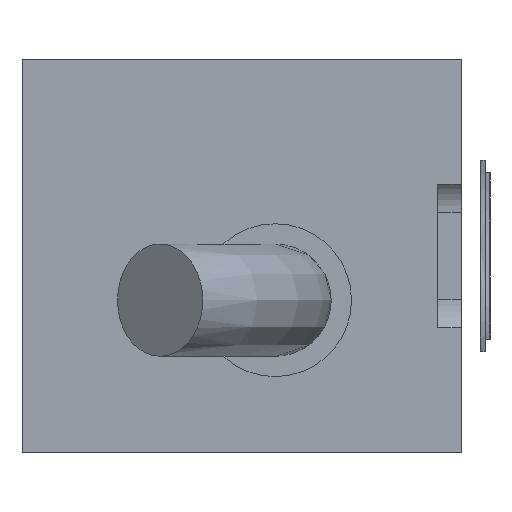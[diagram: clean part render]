
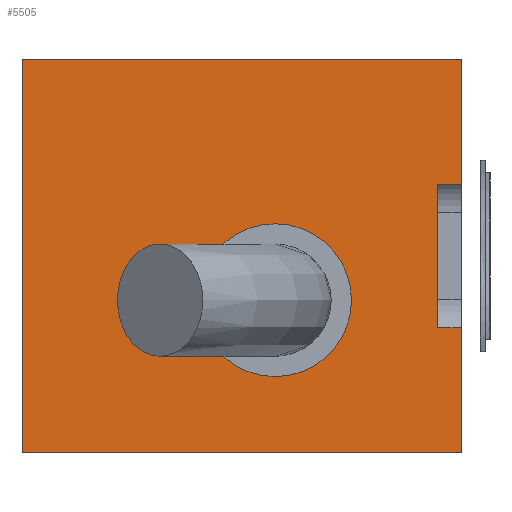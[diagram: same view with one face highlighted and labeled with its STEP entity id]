
A CAD part, left-side view. The second image highlights one B-rep face of the part: STEP entity #5505.
In plain terms, the highlighted planar face has unit normal (-1, 0, 0).
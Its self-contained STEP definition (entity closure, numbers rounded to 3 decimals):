
#160 = DIRECTION ( 'NONE',  ( 0., -1., 0. ) ) ;
#317 = VERTEX_POINT ( 'NONE', #1193 ) ;
#324 = CARTESIAN_POINT ( 'NONE',  ( -18., 0., 8.25 ) ) ;
#345 = FACE_OUTER_BOUND ( 'NONE', #7143, .T. ) ;
#605 = EDGE_CURVE ( 'NONE', #10595, #4561, #3071, .T. ) ;
#631 = VECTOR ( 'NONE', #999, 1000. ) ;
#749 = DIRECTION ( 'NONE',  ( 0., 0., 1. ) ) ;
#801 = CARTESIAN_POINT ( 'NONE',  ( -18., 1., 8.25 ) ) ;
#999 = DIRECTION ( 'NONE',  ( 0., 0., 1. ) ) ;
#1043 = CARTESIAN_POINT ( 'NONE',  ( -18., 1., -3. ) ) ;
#1125 = VECTOR ( 'NONE', #6703, 1000. ) ;
#1193 = CARTESIAN_POINT ( 'NONE',  ( -18., 1., 3. ) ) ;
#1599 = CARTESIAN_POINT ( 'NONE',  ( -18., 0., -3. ) ) ;
#1606 = EDGE_LOOP ( 'NONE', ( #3007, #9423 ) ) ;
#1650 = ORIENTED_EDGE ( 'NONE', *, *, #5278, .T. ) ;
#1722 = EDGE_CURVE ( 'NONE', #4429, #1838, #5942, .T. ) ;
#1835 = EDGE_CURVE ( 'NONE', #9104, #8877, #2994, .T. ) ;
#1838 = VERTEX_POINT ( 'NONE', #1043 ) ;
#2056 = EDGE_CURVE ( 'NONE', #2518, #7193, #10161, .T. ) ;
#2067 = LINE ( 'NONE', #3261, #2985 ) ;
#2206 = AXIS2_PLACEMENT_3D ( 'NONE', #10916, #5843, #749 ) ;
#2239 = AXIS2_PLACEMENT_3D ( 'NONE', #10870, #5833, #10790 ) ;
#2518 = VERTEX_POINT ( 'NONE', #5622 ) ;
#2628 = CARTESIAN_POINT ( 'NONE',  ( -18., 0., 3. ) ) ;
#2767 = DIRECTION ( 'NONE',  ( 0., 0., 1. ) ) ;
#2985 = VECTOR ( 'NONE', #6749, 1000. ) ;
#2994 = LINE ( 'NONE', #3563, #8438 ) ;
#3007 = ORIENTED_EDGE ( 'NONE', *, *, #605, .F. ) ;
#3011 = CARTESIAN_POINT ( 'NONE',  ( -18., 7.8, -1.85 ) ) ;
#3024 = ORIENTED_EDGE ( 'NONE', *, *, #4468, .F. ) ;
#3071 = CIRCLE ( 'NONE', #2206, 3.2 ) ;
#3261 = CARTESIAN_POINT ( 'NONE',  ( -18., 1., 3. ) ) ;
#3298 = ORIENTED_EDGE ( 'NONE', *, *, #8935, .F. ) ;
#3374 = LINE ( 'NONE', #9612, #4970 ) ;
#3563 = CARTESIAN_POINT ( 'NONE',  ( -18., 18.4, -8.25 ) ) ;
#3645 = LINE ( 'NONE', #801, #1125 ) ;
#4429 = VERTEX_POINT ( 'NONE', #1599 ) ;
#4468 = EDGE_CURVE ( 'NONE', #9104, #2518, #9935, .T. ) ;
#4561 = VERTEX_POINT ( 'NONE', #6640 ) ;
#4853 = VECTOR ( 'NONE', #9521, 1000. ) ;
#4970 = VECTOR ( 'NONE', #2767, 1000. ) ;
#5152 = FACE_BOUND ( 'NONE', #1606, .T. ) ;
#5201 = CARTESIAN_POINT ( 'NONE',  ( -18., 1., -3. ) ) ;
#5278 = EDGE_CURVE ( 'NONE', #8877, #4429, #9653, .T. ) ;
#5505 = ADVANCED_FACE ( 'NONE', ( #5152, #345 ), #6661, .F. ) ;
#5622 = CARTESIAN_POINT ( 'NONE',  ( -18., 18.4, 8.25 ) ) ;
#5833 = DIRECTION ( 'NONE',  ( 1., 0., 0. ) ) ;
#5843 = DIRECTION ( 'NONE',  ( -1., 0., 0. ) ) ;
#5848 = CARTESIAN_POINT ( 'NONE',  ( -18., 18.4, 8.25 ) ) ;
#5942 = LINE ( 'NONE', #5201, #4853 ) ;
#6179 = CIRCLE ( 'NONE', #6688, 3.2 ) ;
#6329 = EDGE_CURVE ( 'NONE', #317, #7609, #2067, .T. ) ;
#6514 = ORIENTED_EDGE ( 'NONE', *, *, #1722, .T. ) ;
#6640 = CARTESIAN_POINT ( 'NONE',  ( -18., 7.8, -5.05 ) ) ;
#6661 = PLANE ( 'NONE',  #2239 ) ;
#6688 = AXIS2_PLACEMENT_3D ( 'NONE', #3011, #7311, #8015 ) ;
#6697 = ORIENTED_EDGE ( 'NONE', *, *, #2056, .F. ) ;
#6703 = DIRECTION ( 'NONE',  ( 0., 0., -1. ) ) ;
#6749 = DIRECTION ( 'NONE',  ( 0., -1., 0. ) ) ;
#6972 = VECTOR ( 'NONE', #9792, 1000. ) ;
#7128 = ORIENTED_EDGE ( 'NONE', *, *, #6329, .T. ) ;
#7143 = EDGE_LOOP ( 'NONE', ( #3298, #7128, #10156, #6697, #3024, #10682, #1650, #6514 ) ) ;
#7193 = VERTEX_POINT ( 'NONE', #324 ) ;
#7194 = CARTESIAN_POINT ( 'NONE',  ( -18., 18.4, 8.25 ) ) ;
#7311 = DIRECTION ( 'NONE',  ( -1., 0., 0. ) ) ;
#7609 = VERTEX_POINT ( 'NONE', #2628 ) ;
#7683 = VECTOR ( 'NONE', #10055, 1000. ) ;
#8015 = DIRECTION ( 'NONE',  ( 0., 0., 1. ) ) ;
#8438 = VECTOR ( 'NONE', #160, 1000. ) ;
#8645 = CARTESIAN_POINT ( 'NONE',  ( -18., 18.4, -8.25 ) ) ;
#8877 = VERTEX_POINT ( 'NONE', #10102 ) ;
#8935 = EDGE_CURVE ( 'NONE', #317, #1838, #3645, .T. ) ;
#9104 = VERTEX_POINT ( 'NONE', #8645 ) ;
#9135 = EDGE_CURVE ( 'NONE', #7609, #7193, #3374, .T. ) ;
#9280 = EDGE_CURVE ( 'NONE', #4561, #10595, #6179, .T. ) ;
#9423 = ORIENTED_EDGE ( 'NONE', *, *, #9280, .F. ) ;
#9514 = CARTESIAN_POINT ( 'NONE',  ( -18., 0., 8.25 ) ) ;
#9521 = DIRECTION ( 'NONE',  ( 0., 1., 0. ) ) ;
#9612 = CARTESIAN_POINT ( 'NONE',  ( -18., 0., 8.25 ) ) ;
#9653 = LINE ( 'NONE', #9514, #631 ) ;
#9792 = DIRECTION ( 'NONE',  ( 0., -1., 0. ) ) ;
#9935 = LINE ( 'NONE', #5848, #7683 ) ;
#10055 = DIRECTION ( 'NONE',  ( 0., 0., 1. ) ) ;
#10102 = CARTESIAN_POINT ( 'NONE',  ( -18., 0., -8.25 ) ) ;
#10156 = ORIENTED_EDGE ( 'NONE', *, *, #9135, .T. ) ;
#10161 = LINE ( 'NONE', #7194, #6972 ) ;
#10595 = VERTEX_POINT ( 'NONE', #10612 ) ;
#10612 = CARTESIAN_POINT ( 'NONE',  ( -18., 7.8, 1.35 ) ) ;
#10682 = ORIENTED_EDGE ( 'NONE', *, *, #1835, .T. ) ;
#10790 = DIRECTION ( 'NONE',  ( 0., 0., -1. ) ) ;
#10870 = CARTESIAN_POINT ( 'NONE',  ( -18., 18.4, 8.25 ) ) ;
#10916 = CARTESIAN_POINT ( 'NONE',  ( -18., 7.8, -1.85 ) ) ;
